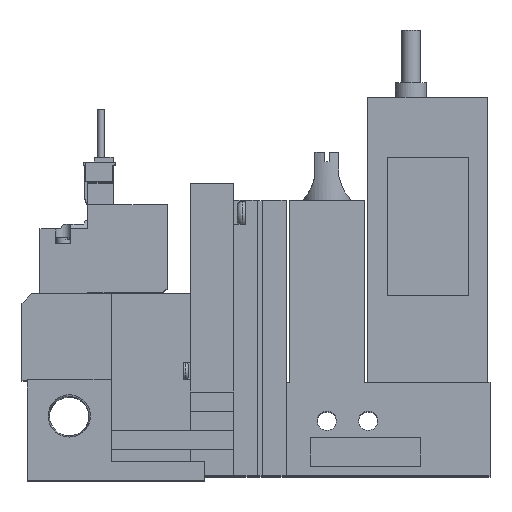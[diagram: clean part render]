
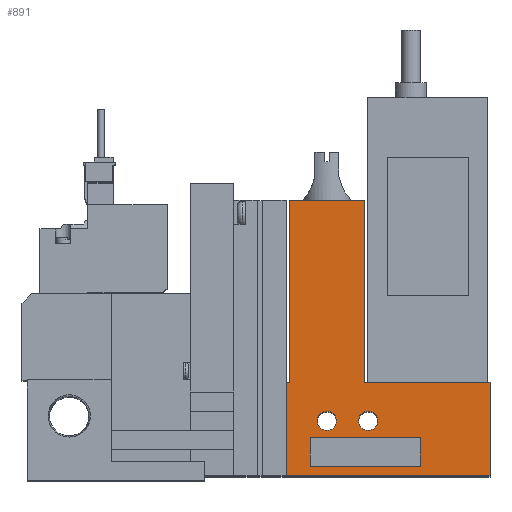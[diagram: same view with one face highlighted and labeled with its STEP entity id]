
A CAD part, top view. The second image highlights one B-rep face of the part: STEP entity #891.
In plain terms, the highlighted planar face has unit normal (0, 0, 1).
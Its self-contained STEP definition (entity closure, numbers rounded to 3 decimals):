
#891=ADVANCED_FACE('',(#1811,#1812,#1813,#1814),#1815,.T.);
#1811=FACE_BOUND('',#3018,.T.);
#1812=FACE_BOUND('',#3019,.T.);
#1813=FACE_BOUND('',#3020,.T.);
#1814=FACE_OUTER_BOUND('',#3021,.T.);
#1815=PLANE('',#3022);
#3018=EDGE_LOOP('',(#6321,#6322,#6323,#6324));
#3019=EDGE_LOOP('',(#6325));
#3020=EDGE_LOOP('',(#6326));
#3021=EDGE_LOOP('',(#6327,#6328,#6329,#6330,#6331,#6332,#6333,#6334));
#3022=AXIS2_PLACEMENT_3D('',#6335,#6336,#6337);
#6321=ORIENTED_EDGE('',*,*,#8277,.T.);
#6322=ORIENTED_EDGE('',*,*,#8189,.T.);
#6323=ORIENTED_EDGE('',*,*,#8381,.T.);
#6324=ORIENTED_EDGE('',*,*,#8211,.T.);
#6325=ORIENTED_EDGE('',*,*,#8191,.T.);
#6326=ORIENTED_EDGE('',*,*,#8273,.T.);
#6327=ORIENTED_EDGE('',*,*,#8184,.F.);
#6328=ORIENTED_EDGE('',*,*,#8354,.T.);
#6329=ORIENTED_EDGE('',*,*,#8089,.T.);
#6330=ORIENTED_EDGE('',*,*,#8100,.T.);
#6331=ORIENTED_EDGE('',*,*,#8366,.T.);
#6332=ORIENTED_EDGE('',*,*,#8327,.T.);
#6333=ORIENTED_EDGE('',*,*,#8252,.T.);
#6334=ORIENTED_EDGE('',*,*,#8249,.T.);
#6335=CARTESIAN_POINT('',(0.0,0.0,10.0));
#6336=DIRECTION('',(0.0,0.0,1.0));
#6337=DIRECTION('',(1.0,0.0,0.0));
#8089=EDGE_CURVE('',#9755,#9753,#9756,.T.);
#8100=EDGE_CURVE('',#9753,#9774,#9776,.T.);
#8184=EDGE_CURVE('',#9934,#9936,#9937,.T.);
#8189=EDGE_CURVE('',#9939,#9944,#9946,.T.);
#8191=EDGE_CURVE('',#9949,#9949,#9950,.T.);
#8211=EDGE_CURVE('',#9980,#9985,#9987,.T.);
#8249=EDGE_CURVE('',#10051,#9936,#10052,.T.);
#8252=EDGE_CURVE('',#10056,#10051,#10057,.T.);
#8273=EDGE_CURVE('',#10091,#10091,#10092,.T.);
#8277=EDGE_CURVE('',#9985,#9939,#10096,.T.);
#8327=EDGE_CURVE('',#10173,#10056,#10174,.T.);
#8354=EDGE_CURVE('',#9934,#9755,#10211,.T.);
#8366=EDGE_CURVE('',#9774,#10173,#10224,.T.);
#8381=EDGE_CURVE('',#9944,#9980,#10240,.T.);
#9753=VERTEX_POINT('',#12435);
#9755=VERTEX_POINT('',#12438);
#9756=LINE('',#12439,#12440);
#9774=VERTEX_POINT('',#12466);
#9776=LINE('',#12469,#12470);
#9934=VERTEX_POINT('',#12723);
#9936=VERTEX_POINT('',#12726);
#9937=LINE('',#12727,#12728);
#9939=VERTEX_POINT('',#12731);
#9944=VERTEX_POINT('',#12738);
#9946=LINE('',#12741,#12742);
#9949=VERTEX_POINT('',#12745);
#9950=CIRCLE('',#12746,2.0);
#9980=VERTEX_POINT('',#12791);
#9985=VERTEX_POINT('',#12798);
#9987=LINE('',#12801,#12802);
#10051=VERTEX_POINT('',#12902);
#10052=LINE('',#12903,#12904);
#10056=VERTEX_POINT('',#12910);
#10057=LINE('',#12911,#12912);
#10091=VERTEX_POINT('',#12963);
#10092=CIRCLE('',#12964,2.0);
#10096=LINE('',#12971,#12972);
#10173=VERTEX_POINT('',#13140);
#10174=LINE('',#13141,#13142);
#10211=LINE('',#13205,#13206);
#10224=LINE('',#13230,#13231);
#10240=LINE('',#13261,#13262);
#12435=CARTESIAN_POINT('',(97.6,19.5,10.0));
#12438=CARTESIAN_POINT('',(97.6,0.0,10.0));
#12439=CARTESIAN_POINT('',(97.6,0.0,10.0));
#12440=VECTOR('',#14978,1.0);
#12466=CARTESIAN_POINT('',(71.45,19.5,10.0));
#12469=CARTESIAN_POINT('',(97.6,19.5,10.0));
#12470=VECTOR('',#14991,1.0);
#12723=CARTESIAN_POINT('',(55.1,0.0,10.0));
#12726=CARTESIAN_POINT('',(55.1,19.5,10.0));
#12727=CARTESIAN_POINT('',(55.1,0.0,10.0));
#12728=VECTOR('',#15100,1.0);
#12731=CARTESIAN_POINT('',(60.1,8.0,10.0));
#12738=CARTESIAN_POINT('',(83.1,8.0,10.0));
#12741=CARTESIAN_POINT('',(0.0,8.0,10.0));
#12742=VECTOR('',#15105,1.0);
#12745=CARTESIAN_POINT('',(65.6,11.5,10.0));
#12746=AXIS2_PLACEMENT_3D('',#15109,#15110,#15111);
#12791=CARTESIAN_POINT('',(83.1,2.0,10.0));
#12798=CARTESIAN_POINT('',(60.1,2.0,10.0));
#12801=CARTESIAN_POINT('',(0.0,2.0,10.0));
#12802=VECTOR('',#15133,1.0);
#12902=CARTESIAN_POINT('',(55.75,19.5,10.0));
#12903=CARTESIAN_POINT('',(55.75,19.5,10.0));
#12904=VECTOR('',#15173,1.0);
#12910=CARTESIAN_POINT('',(55.75,57.5,10.0));
#12911=CARTESIAN_POINT('',(55.75,57.5,10.0));
#12912=VECTOR('',#15176,1.0);
#12963=CARTESIAN_POINT('',(74.2,11.5,10.0));
#12964=AXIS2_PLACEMENT_3D('',#15200,#15201,#15202);
#12971=CARTESIAN_POINT('',(60.1,0.0,10.0));
#12972=VECTOR('',#15206,1.0);
#13140=CARTESIAN_POINT('',(71.45,57.5,10.0));
#13141=CARTESIAN_POINT('',(71.45,57.5,10.0));
#13142=VECTOR('',#15266,1.0);
#13205=CARTESIAN_POINT('',(18.6,0.0,10.0));
#13206=VECTOR('',#15293,1.0);
#13230=CARTESIAN_POINT('',(71.45,19.5,10.0));
#13231=VECTOR('',#15305,1.0);
#13261=CARTESIAN_POINT('',(83.1,0.0,10.0));
#13262=VECTOR('',#15320,1.0);
#14978=DIRECTION('',(0.0,1.0,0.0));
#14991=DIRECTION('',(-1.0,0.0,0.0));
#15100=DIRECTION('',(0.0,1.0,0.0));
#15105=DIRECTION('',(1.0,0.0,0.0));
#15109=CARTESIAN_POINT('',(63.6,11.5,10.0));
#15110=DIRECTION('',(0.0,0.0,-1.0));
#15111=DIRECTION('',(1.0,0.0,0.0));
#15133=DIRECTION('',(-1.0,0.0,0.0));
#15173=DIRECTION('',(-1.0,0.0,0.0));
#15176=DIRECTION('',(0.0,-1.0,0.0));
#15200=CARTESIAN_POINT('',(72.2,11.5,10.0));
#15201=DIRECTION('',(0.0,0.0,-1.0));
#15202=DIRECTION('',(1.0,0.0,0.0));
#15206=DIRECTION('',(0.0,1.0,0.0));
#15266=DIRECTION('',(-1.0,0.0,0.0));
#15293=DIRECTION('',(1.0,0.0,0.0));
#15305=DIRECTION('',(0.0,1.0,0.0));
#15320=DIRECTION('',(0.0,-1.0,0.0));
